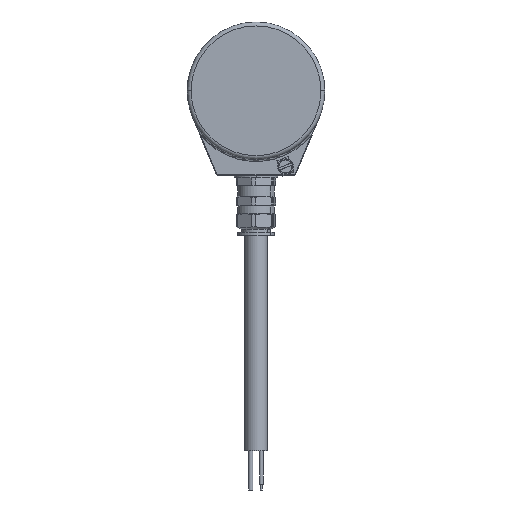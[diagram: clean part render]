
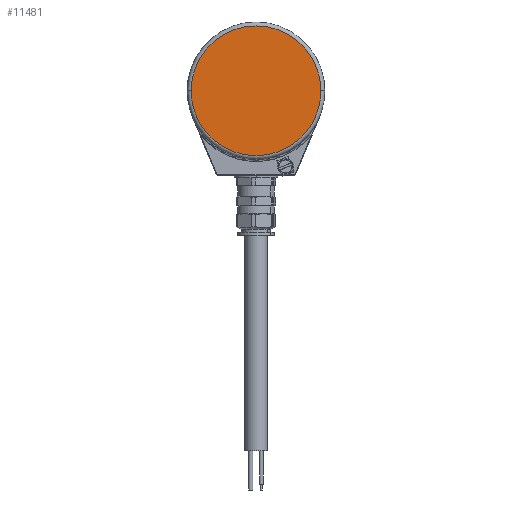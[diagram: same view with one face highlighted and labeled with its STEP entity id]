
A CAD part, left-side view. The second image highlights one B-rep face of the part: STEP entity #11481.
In plain terms, the highlighted planar face has unit normal (-1, 0, 0).
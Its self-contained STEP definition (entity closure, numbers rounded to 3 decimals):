
#744 = CARTESIAN_POINT ( 'NONE',  ( -70.2, 33., 0. ) ) ;
#831 = DIRECTION ( 'NONE',  ( 0., -1., 0. ) ) ;
#832 = DIRECTION ( 'NONE',  ( -1., 0., 0. ) ) ;
#833 = CARTESIAN_POINT ( 'NONE',  ( -70.2, 0., 0. ) ) ;
#834 = AXIS2_PLACEMENT_3D ( 'NONE', #833, #832, #831 ) ;
#835 = CIRCLE ( 'NONE', #834, 33. ) ;
#1083 = DIRECTION ( 'NONE',  ( 0., -1., 0. ) ) ;
#1084 = DIRECTION ( 'NONE',  ( -1., 0., 0. ) ) ;
#1085 = AXIS2_PLACEMENT_3D ( 'NONE', #1126, #1084, #1083 ) ;
#1086 = CIRCLE ( 'NONE', #1085, 33. ) ;
#1109 = CARTESIAN_POINT ( 'NONE',  ( -70.2, -33., 0. ) ) ;
#1126 = CARTESIAN_POINT ( 'NONE',  ( -70.2, 0., 0. ) ) ;
#2029 = AXIS2_PLACEMENT_3D ( 'NONE', #2196, #2195, #2194 ) ;
#2030 = PLANE ( 'NONE',  #2029 ) ;
#2045 = FACE_OUTER_BOUND ( 'NONE', #11441, .T. ) ;
#2194 = DIRECTION ( 'NONE',  ( 0., 1., 0. ) ) ;
#2195 = DIRECTION ( 'NONE',  ( 1., 0., 0. ) ) ;
#2196 = CARTESIAN_POINT ( 'NONE',  ( -70.2, 0., 0. ) ) ;
#11090 = VERTEX_POINT ( 'NONE', #744 ) ;
#11092 = EDGE_CURVE ( 'NONE', #11230, #11090, #835, .T. ) ;
#11210 = ORIENTED_EDGE ( 'NONE', *, *, #11092, .T. ) ;
#11211 = ORIENTED_EDGE ( 'NONE', *, *, #11212, .T. ) ;
#11212 = EDGE_CURVE ( 'NONE', #11090, #11230, #1086, .T. ) ;
#11230 = VERTEX_POINT ( 'NONE', #1109 ) ;
#11441 = EDGE_LOOP ( 'NONE', ( #11210, #11211 ) ) ;
#11481 = ADVANCED_FACE ( 'NONE', ( #2045 ), #2030, .F. ) ;
